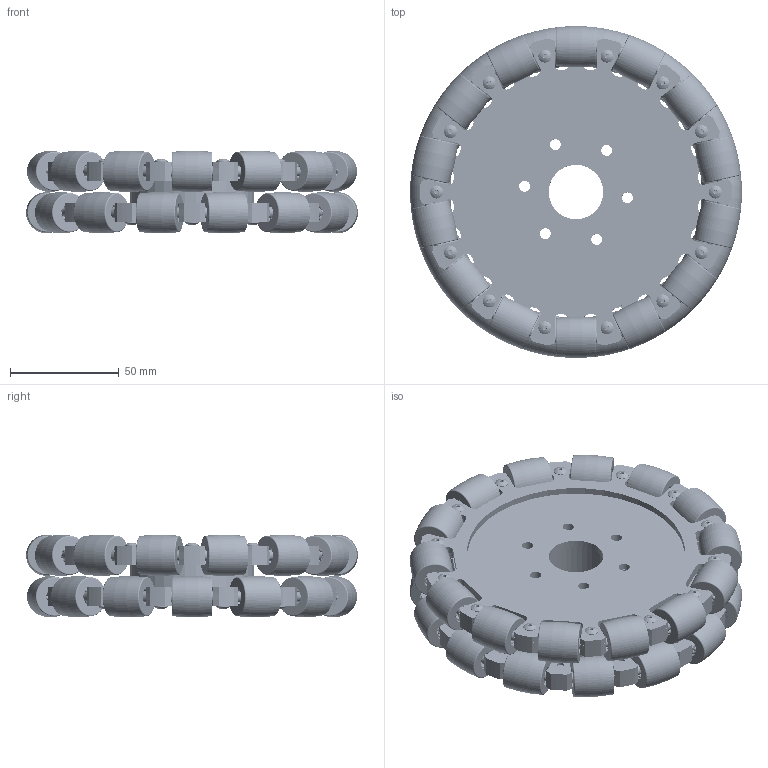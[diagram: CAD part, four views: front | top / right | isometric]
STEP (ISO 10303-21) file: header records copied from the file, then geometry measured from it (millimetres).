
FILE_DESCRIPTION (( 'STEP AP214' ), '1' );
FILE_NAME ('14083.STEP', '2017-11-07T02:27:03', ( 'nss000' ), ( 'Microsoft' ), 'SwSTEP 2.0', 'SolidWorks 2016', '' );
FILE_SCHEMA (( 'AUTOMOTIVE_DESIGN' ));
Length unit declared in the file: millimetre
Products named in the file (11): 14083; 6寸90度14分车轮-多件弧形轮组合; 6渡90僅14煦陬謫-穩隊3X8; 6寸90度14分车轮-单件弧形轮组合; 6渡90僅14煦陬謫-階杶朴3X朴5X2; 旮僱⑩粣創603zz; 6寸90度14分车轮-弧形轮-销; 6寸90度14分车轮-弧形轮; 6寸90度14分车轮-弧形轮夹板; 6寸90度14分车轮-弧形轮固定板; 6寸90度14分车轮-后轮连接体
Assembly tree (40 placements, depth 4):
  14083
    6寸90度14分车轮-后轮连接体
    6寸90度14分车轮-多件弧形轮组合  x2
      6寸90度14分车轮-弧形轮固定板
      6寸90度14分车轮-弧形轮夹板
      6寸90度14分车轮-单件弧形轮组合
        6寸90度14分车轮-弧形轮
        6寸90度14分车轮-弧形轮-销
        旮僱⑩粣創603zz  x2
        6渡90僅14煦陬謫-階杶朴3X朴5X2  x2
      6渡90僅14煦陬謫-穩隊3X8
Bounding box: 152.25 x 152.25 x 37.89 mm (x, y, z)
Volume: 269884.3 mm3; surface area: 206093.5 mm2
Topology: 651 solids, 651 shells, 4532 faces, 11370 edges, 7468 vertices
Faces by surface type: cylinder 1858, plane 1274, sphere 840, torus 560
Entity records: 17792 total; most frequent: DIRECTION 3072, CARTESIAN_POINT 2993, ORIENTED_EDGE 2912, EDGE_CURVE 1456, AXIS2_PLACEMENT_3D 1049, LINE 974, VECTOR 974, VERTEX_POINT 970
